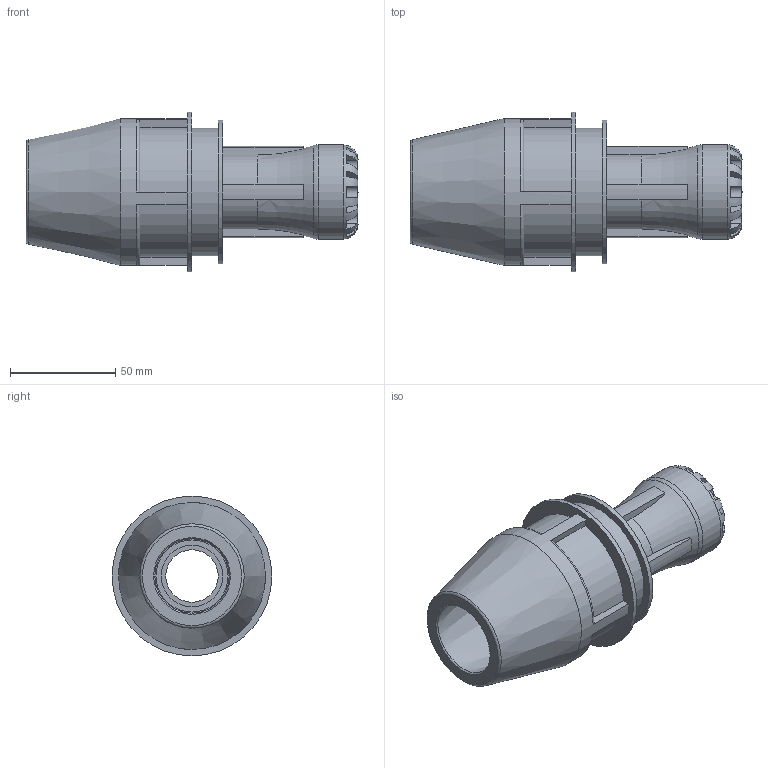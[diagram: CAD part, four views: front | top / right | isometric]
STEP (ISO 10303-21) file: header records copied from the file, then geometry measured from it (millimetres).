
FILE_DESCRIPTION(/* description */ ('PLASSON UNIVERSAL COUPLING 31-35x25 SERIES 1'),/* implementation_level */ '2;1');
FILE_NAME(/* name */ 'C:\Dropbox\KIMPROJECTS-Inventor\99-16-3568-Processing\S1\27.01.19\10017\100170025035.ipt.stp',/* time_stamp */ '2019-01-27T09:12:01+02:00',/* author */ ('KIM'),/* organization */ (''),/* preprocessor_version */ 'ST-DEVELOPER v15.6',/* originating_system */ 'Autodesk Inventor 2015',/* authorisation */ '');
FILE_SCHEMA (('AUTOMOTIVE_DESIGN { 1 0 10303 214 3 1 1 }'));
Length unit declared in the file: millimetre
Products named in the file (1): 100170025035
Bounding box: 158 x 76 x 76 mm (x, y, z)
Volume: 213568.7 mm3; surface area: 56905.8 mm2
Topology: 1 solids, 1 shells, 129 faces, 328 edges, 208 vertices
Faces by surface type: plane 81, cylinder 36, torus 8, cone 4
Full cylindrical faces by diameter (mm): 25 x1, 29.3 x1, 34.3 x1, 45 x1, 60.8 x1, 68.4 x1, 69.92 x1, 76 x1
Entity records: 4531 total; most frequent: CARTESIAN_POINT 1338, DIRECTION 640, ORIENTED_EDGE 620, EDGE_CURVE 310, AXIS2_PLACEMENT_3D 256, VERTEX_POINT 206, EDGE_LOOP 154, STYLED_ITEM 130
